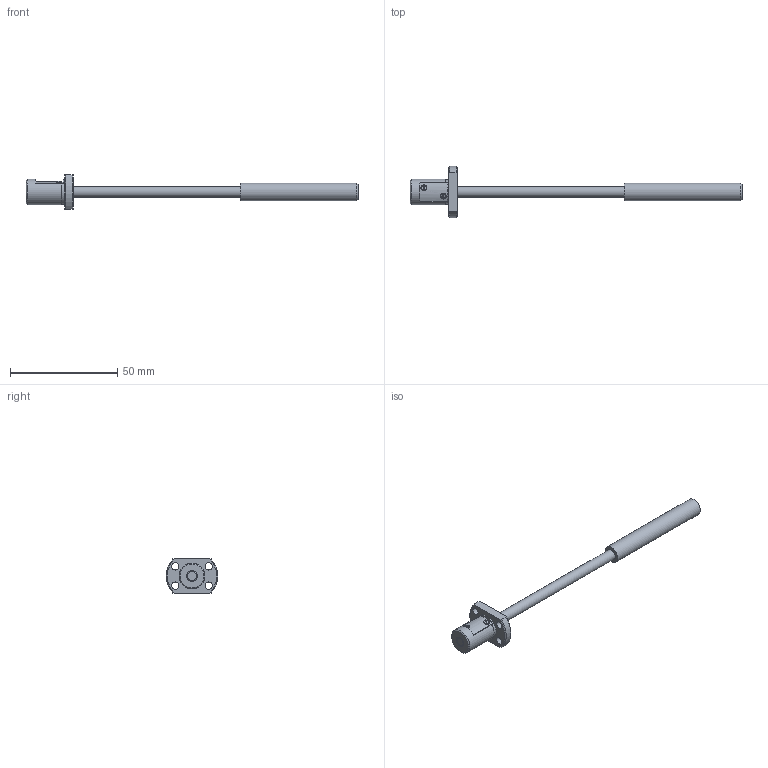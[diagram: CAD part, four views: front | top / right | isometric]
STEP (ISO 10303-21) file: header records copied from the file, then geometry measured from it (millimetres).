
FILE_DESCRIPTION( ( 'STEP AP203' ), '1' );
FILE_NAME( 'e:/temp/worker_94/temp/exporttempdir_5292_1292_DRJUy/format_0/SRT0504-096R155C10A0X(0None).stp', '2021-10-19T05:25:26', ( 'License CC BY-ND 4.0' ), ( 'CADENAS' ), ' ', 'PARTsolutions', ' ' );
FILE_SCHEMA( ( 'CONFIG_CONTROL_DESIGN' ) );
Length unit declared in the file: millimetre
Products named in the file (3): SRT0504-096R155C10A0X(0None); _SRT0504-96R155ACt10NoneShaft; _SRT0504Nut
Assembly tree (2 placements, depth 2):
  SRT0504-096R155C10A0X(0None)
    _SRT0504-96R155ACt10NoneShaft
    _SRT0504Nut
Bounding box: 155 x 23.92 x 16 mm (x, y, z)
Volume: 7597 mm3; surface area: 5156.9 mm2
Topology: 2 solids, 2 shells, 48 faces, 120 edges, 80 vertices
Faces by surface type: plane 23, cylinder 14, cone 11
Full cylindrical faces by diameter (mm): 1 x2, 3.4 x4, 5 x2, 8.2 x1, 11.5 x1, 12 x1
Entity records: 1486 total; most frequent: CARTESIAN_POINT 345, DIRECTION 220, ORIENTED_EDGE 182, AXIS2_PLACEMENT_3D 96, EDGE_CURVE 91, EDGE_LOOP 80, VERTEX_POINT 69, FACE_OUTER_BOUND 59
